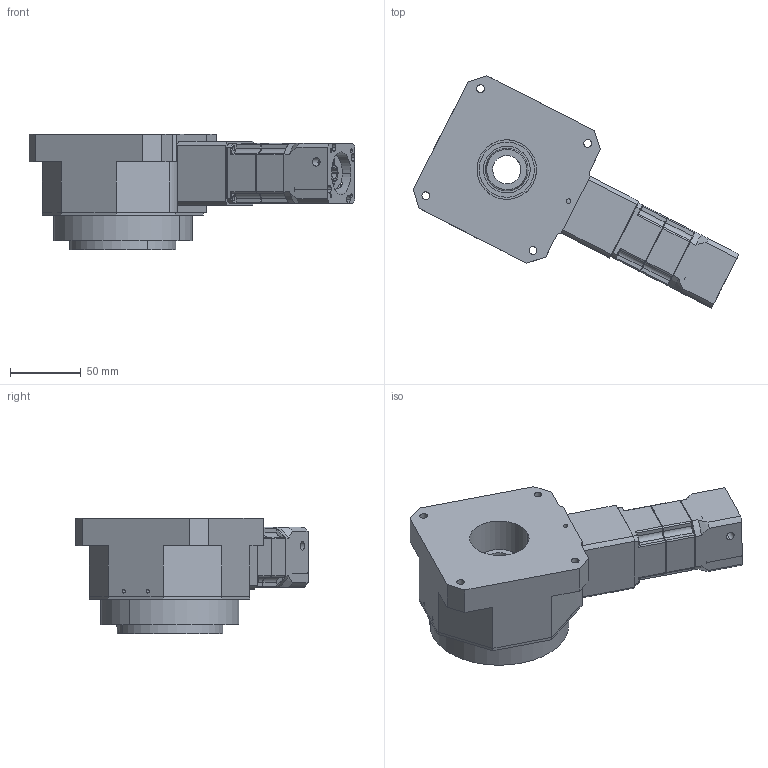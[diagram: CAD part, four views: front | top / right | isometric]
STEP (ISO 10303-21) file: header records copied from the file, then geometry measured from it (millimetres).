
FILE_DESCRIPTION (( 'STEP AP203' ), '1' );
FILE_NAME ('HTM105-L2-8-30-45.STEP', '2024-07-25T07:50:05', ( 'Windows User' ), ( 'P R C' ), 'SwSTEP 2.0', 'SolidWorks 2016', '' );
FILE_SCHEMA (( 'CONFIG_CONTROL_DESIGN' ));
Length unit declared in the file: millimetre
Products named in the file (16): M3x12; HTM105-粣創; 5X5X16; HTM105-蚐猾; PLF040-L2-()-P0-8-30-45-M3; HTM105-蚐猾ㄗ苤ㄘ; HTM105-L2-8-30-45; HTM105訇喘綴楊擘; 斜齿结构输入轴; HTM105-喘謫; PLF040-CQ01_PD42-CQ01+CQ02; HTM105-怀堤粣; PLF040-WZZ-8-30-M3-45-LR28_1123; HTM105-͹̨; PLF040-SJH(坶踡遠謂11); HTM105-眊极
Assembly tree (15 placements, depth 3):
  HTM105-L2-8-30-45
    HTM105-喘謫
    HTM105-怀堤粣
    HTM105-͹̨
    HTM105-眊极
    HTM105-粣創
    HTM105-蚐猾
    HTM105-蚐猾ㄗ苤ㄘ
    HTM105訇喘綴楊擘
    斜齿结构输入轴
    PLF040-L2-()-P0-8-30-45-M3
      PLF040-CQ01_PD42-CQ01+CQ02
      PLF040-WZZ-8-30-M3-45-LR28_1123
      PLF040-SJH(坶踡遠謂11)
      M3x12
      5X5X16
Bounding box: 229.84 x 163.76 x 81.5 mm (x, y, z)
Volume: 767079.3 mm3; surface area: 201076.7 mm2
Topology: 14 solids, 15 shells, 1360 faces, 3508 edges, 2253 vertices
Faces by surface type: plane 638, cylinder 421, cone 148, bspline 146, sphere 5, torus 2
Entity records: 49082 total; most frequent: CARTESIAN_POINT 14605, ORIENTED_EDGE 6860, DIRECTION 6472, EDGE_CURVE 3430, VERTEX_POINT 2253, AXIS2_PLACEMENT_3D 2188, LINE 2096, VECTOR 2096
